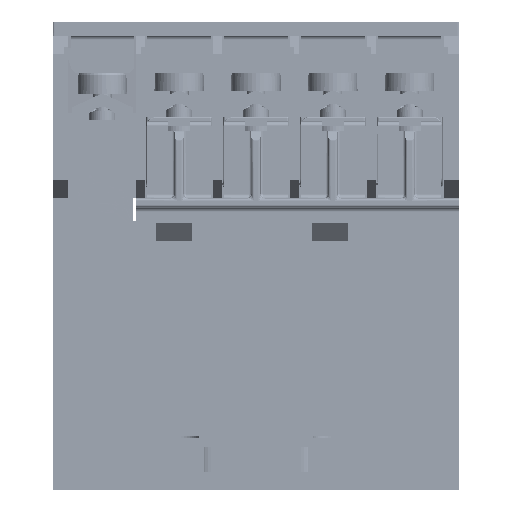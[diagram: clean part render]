
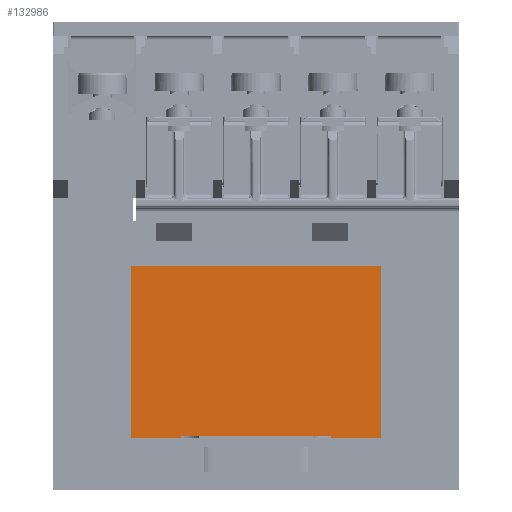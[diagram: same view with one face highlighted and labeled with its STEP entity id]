
A CAD part, front view. The second image highlights one B-rep face of the part: STEP entity #132986.
In plain terms, the highlighted planar face has unit normal (0, -1, 0).
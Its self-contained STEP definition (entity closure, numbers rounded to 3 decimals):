
#37602=DIRECTION('',(1.,0.,0.));
#37603=VECTOR('',#37602,5.625);
#37604=CARTESIAN_POINT('',(8.25,-22.175,-12.25));
#37605=LINE('',#37604,#37603);
#37644=DIRECTION('',(0.,0.,-1.));
#37645=VECTOR('',#37644,0.25);
#37646=CARTESIAN_POINT('',(8.25,-22.175,-12.));
#37647=LINE('',#37646,#37645);
#38046=DIRECTION('',(1.,0.,0.));
#38047=VECTOR('',#38046,5.625);
#38048=CARTESIAN_POINT('',(-13.875,-22.175,-12.25));
#38049=LINE('',#38048,#38047);
#38060=DIRECTION('',(0.,0.,1.));
#38061=VECTOR('',#38060,0.25);
#38062=CARTESIAN_POINT('',(-8.25,-22.175,-12.25));
#38063=LINE('',#38062,#38061);
#38068=DIRECTION('',(1.,0.,0.));
#38069=VECTOR('',#38068,27.75);
#38070=CARTESIAN_POINT('',(-13.875,-22.175,6.75));
#38071=LINE('',#38070,#38069);
#38072=DIRECTION('',(0.,0.,-1.));
#38073=VECTOR('',#38072,19.);
#38074=CARTESIAN_POINT('',(-13.875,-22.175,6.75));
#38075=LINE('',#38074,#38073);
#88199=DIRECTION('',(0.,0.,1.));
#88200=VECTOR('',#88199,19.);
#88201=CARTESIAN_POINT('',(13.875,-22.175,-12.25));
#88202=LINE('',#88201,#88200);
#88221=DIRECTION('',(1.,0.,0.));
#88222=VECTOR('',#88221,16.5);
#88223=CARTESIAN_POINT('',(-8.25,-22.175,-12.));
#88224=LINE('',#88223,#88222);
#107082=CARTESIAN_POINT('',(8.25,-22.175,-12.25));
#107084=VERTEX_POINT('',#107082);
#107087=CARTESIAN_POINT('',(13.875,-22.175,-12.25));
#107088=VERTEX_POINT('',#107087);
#107113=CARTESIAN_POINT('',(8.25,-22.175,-12.));
#107114=VERTEX_POINT('',#107113);
#107269=CARTESIAN_POINT('',(-8.25,-22.175,-12.25));
#107270=VERTEX_POINT('',#107269);
#107277=CARTESIAN_POINT('',(-13.875,-22.175,-12.25));
#107278=VERTEX_POINT('',#107277);
#107291=CARTESIAN_POINT('',(-8.25,-22.175,-12.));
#107292=VERTEX_POINT('',#107291);
#107297=CARTESIAN_POINT('',(-13.875,-22.175,6.75));
#107298=VERTEX_POINT('',#107297);
#107299=CARTESIAN_POINT('',(13.875,-22.175,6.75));
#107300=VERTEX_POINT('',#107299);
#132967=CARTESIAN_POINT('',(0.,-22.175,-3.75));
#132968=DIRECTION('',(0.,1.,0.));
#132969=DIRECTION('',(0.,0.,1.));
#132970=AXIS2_PLACEMENT_3D('',#132967,#132968,#132969);
#132971=PLANE('',#132970);
#132972=ORIENTED_EDGE('',*,*,#132956,.F.);
#132973=ORIENTED_EDGE('',*,*,#132925,.F.);
#132975=ORIENTED_EDGE('',*,*,#132974,.F.);
#132977=ORIENTED_EDGE('',*,*,#132976,.T.);
#132979=ORIENTED_EDGE('',*,*,#132978,.F.);
#132980=ORIENTED_EDGE('',*,*,#132317,.F.);
#132981=ORIENTED_EDGE('',*,*,#132367,.F.);
#132983=ORIENTED_EDGE('',*,*,#132982,.F.);
#132984=EDGE_LOOP('',(#132972,#132973,#132975,#132977,#132979,#132980,#132981,
#132983));
#132985=FACE_OUTER_BOUND('',#132984,.F.);
#132986=ADVANCED_FACE('',(#132985),#132971,.F.);
#132317=EDGE_CURVE('',#107084,#107088,#37605,.T.);
#132367=EDGE_CURVE('',#107114,#107084,#37647,.T.);
#132925=EDGE_CURVE('',#107278,#107270,#38049,.T.);
#132956=EDGE_CURVE('',#107270,#107292,#38063,.T.);
#132974=EDGE_CURVE('',#107298,#107278,#38075,.T.);
#132976=EDGE_CURVE('',#107298,#107300,#38071,.T.);
#132978=EDGE_CURVE('',#107088,#107300,#88202,.T.);
#132982=EDGE_CURVE('',#107292,#107114,#88224,.T.);
